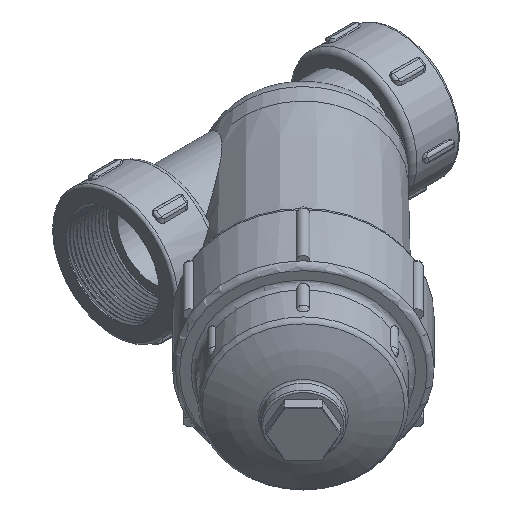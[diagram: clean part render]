
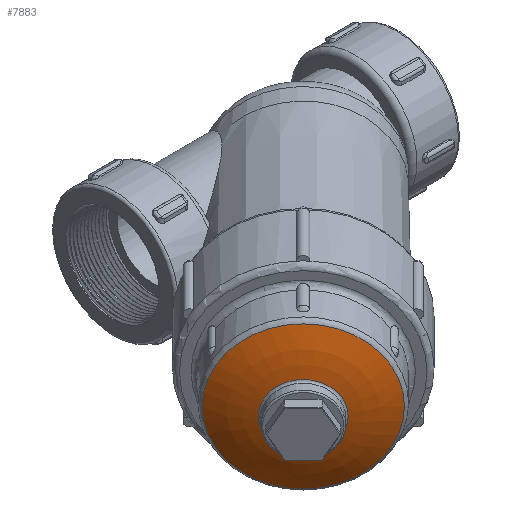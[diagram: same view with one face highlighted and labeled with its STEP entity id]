
A CAD part, isometric view. The second image highlights one B-rep face of the part: STEP entity #7883.
In plain terms, the highlighted toroidal (fillet/blend) face has major radius 6.657 mm and minor radius 89.144 mm.
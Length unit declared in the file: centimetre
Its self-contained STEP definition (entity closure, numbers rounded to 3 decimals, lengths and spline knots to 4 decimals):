
#761=DEGENERATE_TOROIDAL_SURFACE('',#3095,0.6657,8.9144,
 .T.);
#2044=DIRECTION('',(1.,0.,0.));
#2045=DIRECTION('',(0.,0.,1.963));
#2046=DIRECTION('',(1.,0.,0.));
#2047=DIRECTION('',(-1.,0.,0.));
#2048=DIRECTION('',(0.,0.,4.421));
#3094=AXIS2_PLACEMENT_3D('',#9924,#2044,#2045);
#3095=AXIS2_PLACEMENT_3D('',#9926,#2046,$);
#3096=AXIS2_PLACEMENT_3D('',#9927,#2047,#2048);
#3549=CIRCLE('',#3094,1.9627);
#3550=CIRCLE('',#3096,4.421);
#3814=VERTEX_POINT('',#9925);
#3815=VERTEX_POINT('',#9928);
#4719=EDGE_CURVE('',#3814,#3814,#3549,.T.);
#4720=EDGE_CURVE('',#3815,#3815,#3550,.T.);
#5724=ORIENTED_EDGE('',*,*,#4720,.F.);
#5725=ORIENTED_EDGE('',*,*,#4719,.F.);
#7107=EDGE_LOOP('',(#5724));
#7108=EDGE_LOOP('',(#5725));
#7499=FACE_BOUND('',#7107,.T.);
#7500=FACE_BOUND('',#7108,.T.);
#7883=ADVANCED_FACE('',(#7499,#7500),#761,.T.);
#9924=CARTESIAN_POINT('',(7.8548,0.,0.));
#9925=CARTESIAN_POINT('',(7.8548,0.,-1.9627));
#9926=CARTESIAN_POINT('',(-0.9648,0.,0.));
#9927=CARTESIAN_POINT('',(7.1201,0.,0.));
#9928=CARTESIAN_POINT('',(7.1201,0.,-4.421));
